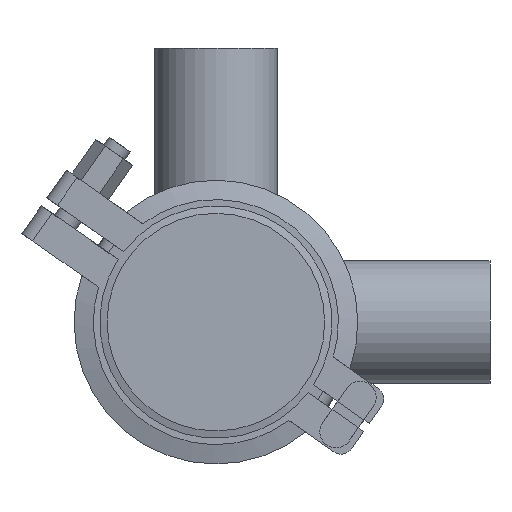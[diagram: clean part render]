
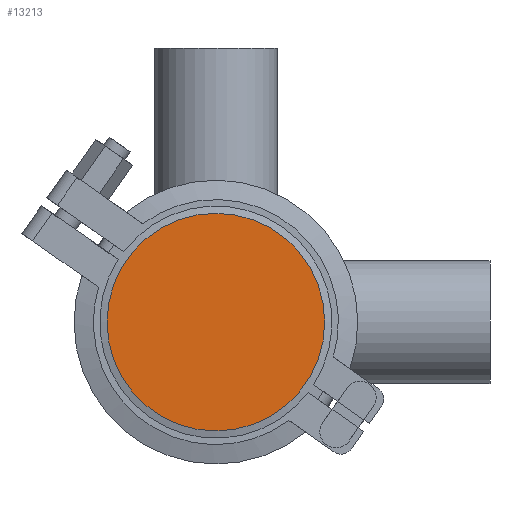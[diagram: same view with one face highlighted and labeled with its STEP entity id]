
A CAD part, front view. The second image highlights one B-rep face of the part: STEP entity #13213.
In plain terms, the highlighted planar face has unit normal (0, -1, 0).
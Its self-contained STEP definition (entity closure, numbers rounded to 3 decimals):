
#587 = DIRECTION ( 'NONE',  ( 0., -1., 0. ) ) ;
#2419 = FACE_OUTER_BOUND ( 'NONE', #9153, .T. ) ;
#9153 = EDGE_LOOP ( 'NONE', ( #11415 ) ) ;
#9615 = DIRECTION ( 'NONE',  ( 0., 1., 0. ) ) ;
#9829 = AXIS2_PLACEMENT_3D ( 'NONE', #11644, #587, #19082 ) ;
#11415 = ORIENTED_EDGE ( 'NONE', *, *, #17324, .F. ) ;
#11644 = CARTESIAN_POINT ( 'NONE',  ( -33.75, 0., 0. ) ) ;
#12904 = AXIS2_PLACEMENT_3D ( 'NONE', #14179, #9615, #19805 ) ;
#13213 = ADVANCED_FACE ( 'NONE', ( #2419 ), #19374, .T. ) ;
#13301 = VERTEX_POINT ( 'NONE', #18186 ) ;
#13862 = CIRCLE ( 'NONE', #12904, 33.75 ) ;
#14179 = CARTESIAN_POINT ( 'NONE',  ( 0., 0., 0. ) ) ;
#17324 = EDGE_CURVE ( 'NONE', #13301, #13301, #13862, .T. ) ;
#18186 = CARTESIAN_POINT ( 'NONE',  ( 0., 0., 33.75 ) ) ;
#19082 = DIRECTION ( 'NONE',  ( 0., 0., -1. ) ) ;
#19374 = PLANE ( 'NONE',  #9829 ) ;
#19805 = DIRECTION ( 'NONE',  ( 0., 0., 1. ) ) ;
